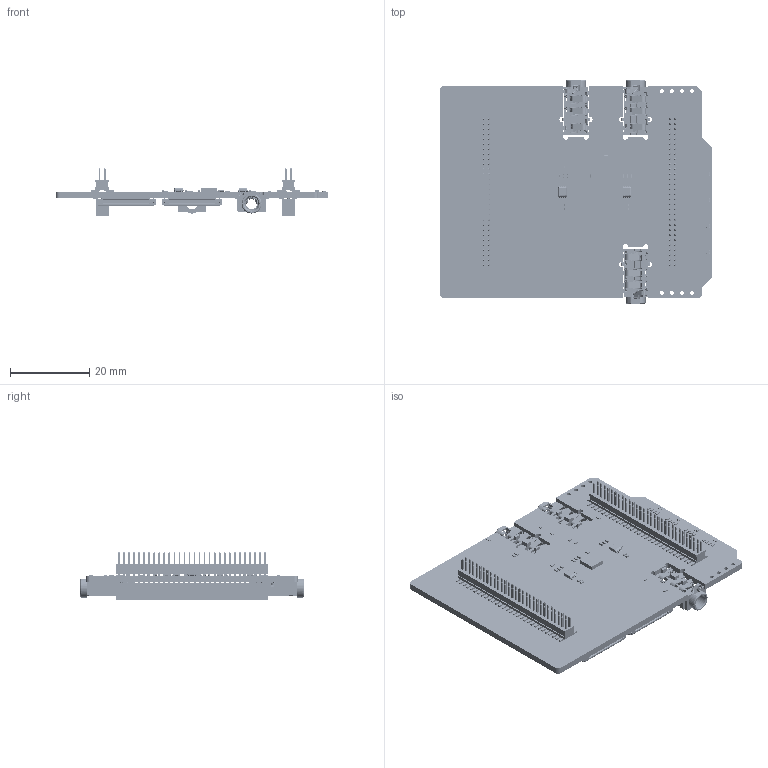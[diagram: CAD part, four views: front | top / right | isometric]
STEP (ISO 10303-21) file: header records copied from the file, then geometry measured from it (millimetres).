
FILE_DESCRIPTION(('Open CASCADE Model'),'2;1');
FILE_NAME('Open CASCADE Shape Model','2026-04-08T11:35:43',('Author'),( 'Open CASCADE'),'Open CASCADE STEP processor 7.5','Open CASCADE 7.5' ,'Unknown');
FILE_SCHEMA(('AUTOMOTIVE_DESIGN { 1 0 10303 214 1 1 1 1 }'));
Length unit declared in the file: millimetre
Products named in the file (95): PCB; Board; Open CASCADE STEP translator 7.5 2.1.1; D8; 9479568784; Extruded; R5_4; RES-0402; R5_3; R5_2; R5_1; R4_1; R4_2; R4_3; R4_4; R3_1; R3_2; R3_3; R3_4; R2_1; R2_2; R2_3; R2_4; DL1_1; SMLP34RGB; DL1_2; DL1_3; DL1_4; R1; D2; R14; R9; R8; R7; C1; CAP-0402; U1; 8562969600; Open CASCADE STEP translator 6.8 11.1; Body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
Assembly tree (177 placements, depth 5):
  PCB
    Board
      Open CASCADE STEP translator 7.5 2.1.1
    D8
      9479568784
        Extruded
    R5_4
      RES-0402
    R5_3
      RES-0402
    R5_2
      RES-0402
    R5_1
      RES-0402
    R4_1
      RES-0402
    R4_2
      RES-0402
    R4_3
      RES-0402
    R4_4
      RES-0402
    R3_1
      RES-0402
    R3_2
      RES-0402
    R3_3
      RES-0402
    R3_4
      RES-0402
    R2_1
      RES-0402
    R2_2
      RES-0402
    R2_3
      RES-0402
    R2_4
      RES-0402
    DL1_1
      SMLP34RGB
    DL1_2
      SMLP34RGB
    DL1_3
      SMLP34RGB
    DL1_4
      SMLP34RGB
    R1
      RES-0402
    D2
      9479568784
        Extruded
    R14
      RES-0402
    R9
      RES-0402
    R8
      RES-0402
    R7
      RES-0402
    C1
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Bounding box: 68.58 x 56.5 x 12.15 mm (x, y, z)
Volume: 8494.7 mm3; surface area: 19013.5 mm2
Topology: 128 solids, 131 shells, 13429 faces, 37063 edges, 23749 vertices
Faces by surface type: plane 10417, cylinder 2423, bspline 313, sphere 204, torus 48, cone 24
Full cylindrical faces by diameter (mm): 0.3 x2, 0.381 x58, 0.508 x58, 0.512 x1, 0.6 x4, 0.8 x4, 1 x8
Entity records: 161460 total; most frequent: CARTESIAN_POINT 32132, ORIENTED_EDGE 27220, DIRECTION 24769, EDGE_CURVE 13611, LINE 11715, VECTOR 11715, VERTEX_POINT 8804, AXIS2_PLACEMENT_3D 6527
